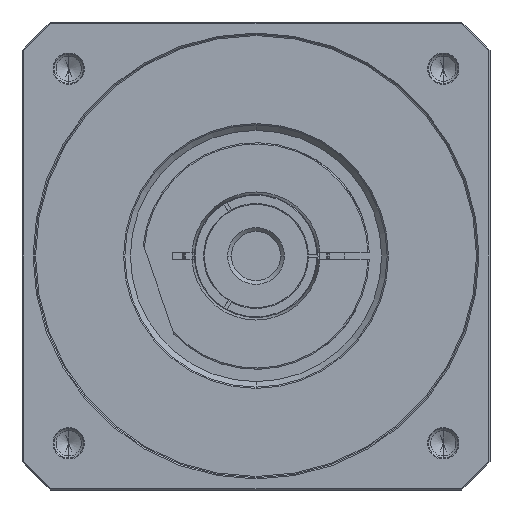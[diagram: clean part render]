
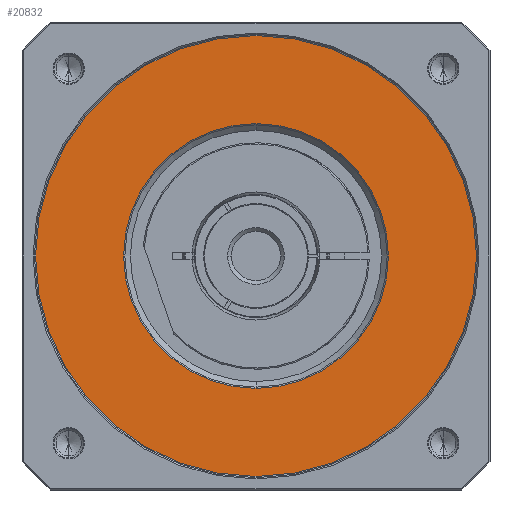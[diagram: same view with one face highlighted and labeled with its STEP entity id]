
A CAD part, left-side view. The second image highlights one B-rep face of the part: STEP entity #20832.
In plain terms, the highlighted planar face has unit normal (-1, 0, 0) as drawn and (0, 0, 1) by its records, which use the part's own axes.
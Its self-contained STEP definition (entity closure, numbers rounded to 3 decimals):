
#19517=CARTESIAN_POINT('',(0.,0.,36.));
#19518=DIRECTION('',(0.,0.,-1.));
#19519=DIRECTION('',(0.,-1.,0.));
#19520=AXIS2_PLACEMENT_3D('',#19517,#19518,#19519);
#19522=CARTESIAN_POINT('',(0.,0.,36.));
#19523=DIRECTION('',(0.,0.,-1.));
#19524=DIRECTION('',(0.,1.,0.));
#19525=AXIS2_PLACEMENT_3D('',#19522,#19523,#19524);
#19527=CARTESIAN_POINT('',(0.,0.,
36.));
#19528=DIRECTION('',(0.,0.,-1.));
#19529=DIRECTION('',(1.,0.,0.));
#19530=AXIS2_PLACEMENT_3D('',#19527,#19528,#19529);
#19532=CARTESIAN_POINT('',(0.,0.,36.));
#19533=DIRECTION('',(0.,0.,-1.));
#19534=DIRECTION('',(-1.,0.,0.));
#19535=AXIS2_PLACEMENT_3D('',#19532,#19533,#19534);
#20116=CARTESIAN_POINT('',(0.,-89.5,36.));
#20117=CARTESIAN_POINT('',(0.,89.5,36.));
#20118=VERTEX_POINT('',#20116);
#20119=VERTEX_POINT('',#20117);
#20152=CARTESIAN_POINT('',(53.75,0.,36.));
#20153=CARTESIAN_POINT('',(-53.75,0.,
36.));
#20154=VERTEX_POINT('',#20152);
#20155=VERTEX_POINT('',#20153);
#20816=CARTESIAN_POINT('',(0.,0.,36.));
#20817=DIRECTION('',(0.,0.,-1.));
#20818=DIRECTION('',(0.,-1.,0.));
#20819=AXIS2_PLACEMENT_3D('',#20816,#20817,#20818);
#20820=PLANE('',#20819);
#20822=ORIENTED_EDGE('',*,*,#20821,.T.);
#20823=ORIENTED_EDGE('',*,*,#20806,.T.);
#20824=EDGE_LOOP('',(#20822,#20823));
#20825=FACE_OUTER_BOUND('',#20824,.F.);
#20827=ORIENTED_EDGE('',*,*,#20826,.F.);
#20829=ORIENTED_EDGE('',*,*,#20828,.F.);
#20830=EDGE_LOOP('',(#20827,#20829));
#20831=FACE_BOUND('',#20830,.F.);
#20832=ADVANCED_FACE('',(#20825,#20831),#20820,.F.);
#19521=CIRCLE('',#19520,89.5);
#19526=CIRCLE('',#19525,89.5);
#19531=CIRCLE('',#19530,53.75);
#19536=CIRCLE('',#19535,53.75);
#20806=EDGE_CURVE('',#20119,#20118,#19526,.T.);
#20821=EDGE_CURVE('',#20118,#20119,#19521,.T.);
#20826=EDGE_CURVE('',#20154,#20155,#19531,.T.);
#20828=EDGE_CURVE('',#20155,#20154,#19536,.T.);
